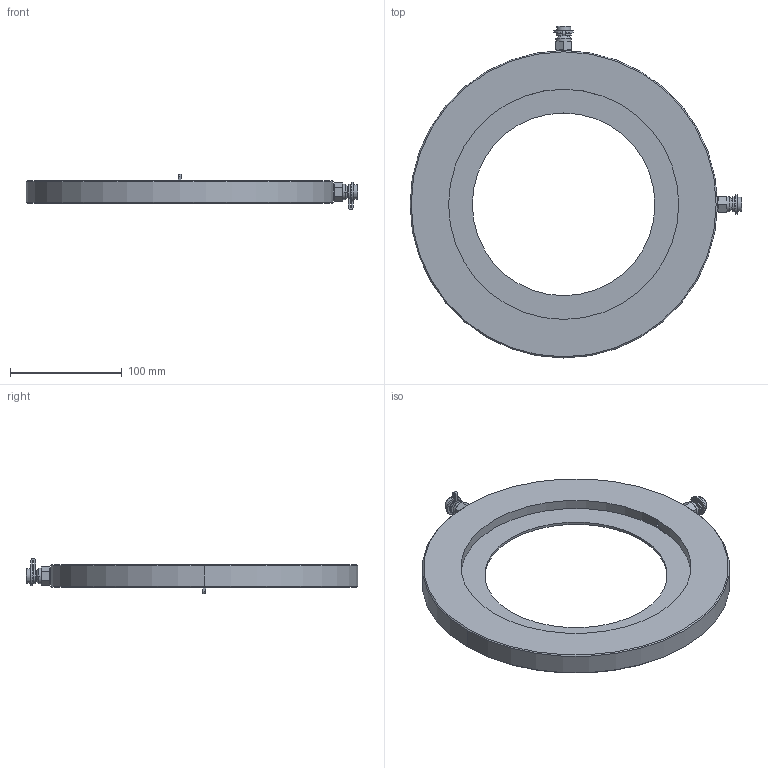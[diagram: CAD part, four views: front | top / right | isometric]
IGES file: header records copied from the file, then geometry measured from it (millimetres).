
Global section: file name: No Iges File Name specified; native system: AutoDesk Inventor R12.0; preprocessor: AutoDesk Inventor Iges Exporter R12.0; date: 20110308.100751; units: millimetre
Bounding box: 297.1 x 297.1 x 31.45 mm (x, y, z)
Volume: 555186.5 mm3; surface area: 109343.3 mm2
Topology: 1 solids, 1 shells, 131 faces, 314 edges, 202 vertices
Faces by surface type: plane 72, cylinder 27, cone 16, revolution 14, bspline 2
